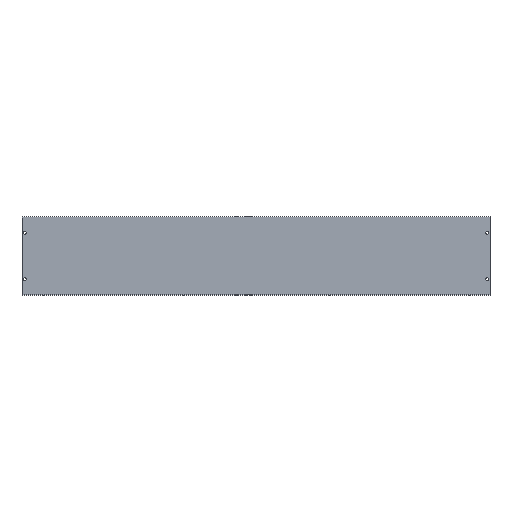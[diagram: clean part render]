
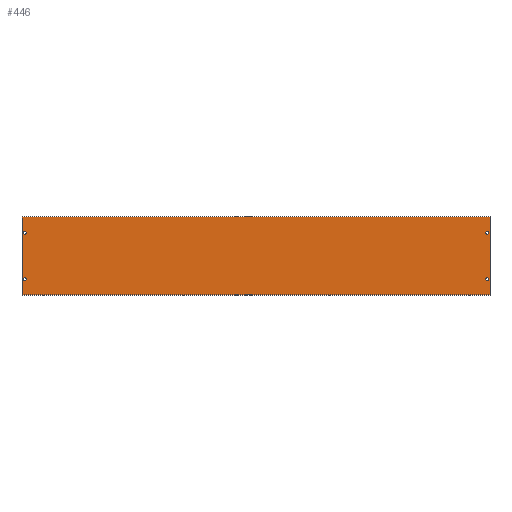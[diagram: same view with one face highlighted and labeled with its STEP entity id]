
A CAD part, top view. The second image highlights one B-rep face of the part: STEP entity #446.
In plain terms, the highlighted planar face has unit normal (0, 0, 1).
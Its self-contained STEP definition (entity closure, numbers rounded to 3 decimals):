
#22=LINE('',#615,#34);
#26=LINE('',#624,#38);
#28=LINE('',#648,#40);
#29=LINE('',#649,#41);
#34=VECTOR('',#527,1000.);
#38=VECTOR('',#533,1000.);
#40=VECTOR('',#561,1000.);
#41=VECTOR('',#562,1000.);
#88=ORIENTED_EDGE('',*,*,#143,.F.);
#89=ORIENTED_EDGE('',*,*,#141,.F.);
#90=ORIENTED_EDGE('',*,*,#139,.F.);
#91=ORIENTED_EDGE('',*,*,#137,.F.);
#92=ORIENTED_EDGE('',*,*,#144,.T.);
#93=ORIENTED_EDGE('',*,*,#130,.T.);
#94=ORIENTED_EDGE('',*,*,#145,.T.);
#95=ORIENTED_EDGE('',*,*,#134,.T.);
#130=EDGE_CURVE('',#162,#161,#22,.T.);
#134=EDGE_CURVE('',#166,#165,#26,.T.);
#137=EDGE_CURVE('',#168,#168,#189,.T.);
#139=EDGE_CURVE('',#170,#170,#191,.T.);
#141=EDGE_CURVE('',#172,#172,#193,.T.);
#143=EDGE_CURVE('',#174,#174,#195,.T.);
#144=EDGE_CURVE('',#165,#162,#28,.T.);
#145=EDGE_CURVE('',#161,#166,#29,.T.);
#161=VERTEX_POINT('',#614);
#162=VERTEX_POINT('',#616);
#165=VERTEX_POINT('',#623);
#166=VERTEX_POINT('',#625);
#168=VERTEX_POINT('',#631);
#170=VERTEX_POINT('',#636);
#172=VERTEX_POINT('',#641);
#174=VERTEX_POINT('',#646);
#189=CIRCLE('',#476,3.);
#191=CIRCLE('',#479,3.);
#193=CIRCLE('',#482,3.);
#195=CIRCLE('',#485,3.);
#220=EDGE_LOOP('',(#88));
#221=EDGE_LOOP('',(#89));
#222=EDGE_LOOP('',(#90));
#223=EDGE_LOOP('',(#91));
#224=EDGE_LOOP('',(#92,#93,#94,#95));
#263=FACE_BOUND('',#220,.T.);
#264=FACE_BOUND('',#221,.T.);
#265=FACE_BOUND('',#222,.T.);
#266=FACE_BOUND('',#223,.T.);
#267=FACE_BOUND('',#224,.T.);
#290=PLANE('',#486);
#446=ADVANCED_FACE('',(#263,#264,#265,#266,#267),#290,.F.);
#476=AXIS2_PLACEMENT_3D('',#630,#539,#540);
#479=AXIS2_PLACEMENT_3D('',#635,#545,#546);
#482=AXIS2_PLACEMENT_3D('',#640,#551,#552);
#485=AXIS2_PLACEMENT_3D('',#645,#557,#558);
#486=AXIS2_PLACEMENT_3D('',#647,#559,#560);
#527=DIRECTION('',(1.,0.,0.));
#533=DIRECTION('',(-1.,0.,0.));
#539=DIRECTION('',(0.,0.,1.));
#540=DIRECTION('',(1.,0.,0.));
#545=DIRECTION('',(0.,0.,1.));
#546=DIRECTION('',(1.,0.,0.));
#551=DIRECTION('',(0.,0.,1.));
#552=DIRECTION('',(1.,0.,0.));
#557=DIRECTION('',(0.,0.,1.));
#558=DIRECTION('',(1.,0.,0.));
#559=DIRECTION('',(0.,0.,-1.));
#560=DIRECTION('',(-1.,0.,0.));
#561=DIRECTION('',(0.,-1.,0.));
#562=DIRECTION('',(0.,1.,0.));
#614=CARTESIAN_POINT('',(450.,-75.,10.));
#615=CARTESIAN_POINT('',(-450.,-75.,10.));
#616=CARTESIAN_POINT('',(-450.,-75.,10.));
#623=CARTESIAN_POINT('',(-450.,75.,10.));
#624=CARTESIAN_POINT('',(-450.,75.,10.));
#625=CARTESIAN_POINT('',(450.,75.,10.));
#630=CARTESIAN_POINT('',(445.,-45.,10.));
#631=CARTESIAN_POINT('',(448.,-45.,10.));
#635=CARTESIAN_POINT('',(445.,45.,10.));
#636=CARTESIAN_POINT('',(448.,45.,10.));
#640=CARTESIAN_POINT('',(-445.,45.,10.));
#641=CARTESIAN_POINT('',(-442.,45.,10.));
#645=CARTESIAN_POINT('',(-445.,-45.,10.));
#646=CARTESIAN_POINT('',(-442.,-45.,10.));
#647=CARTESIAN_POINT('',(0.,0.,10.));
#648=CARTESIAN_POINT('',(-450.,-75.,10.));
#649=CARTESIAN_POINT('',(450.,-75.,10.));
